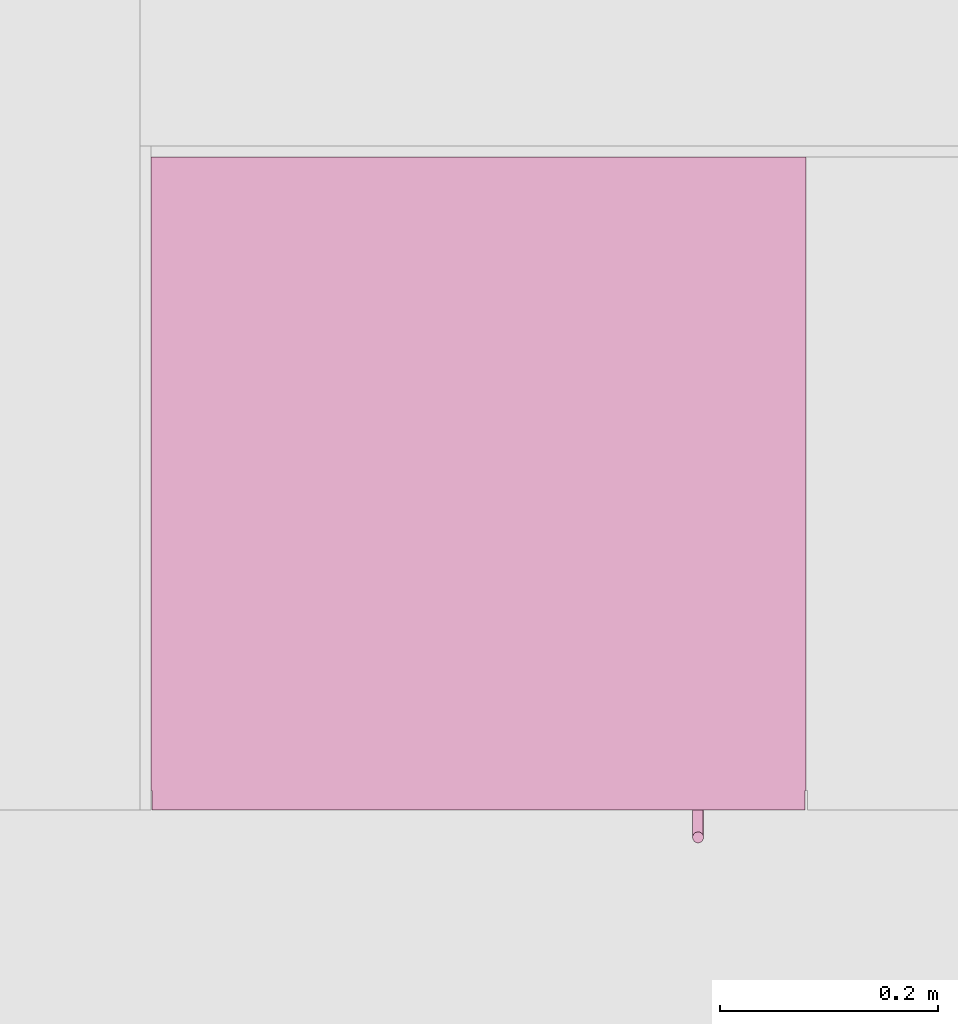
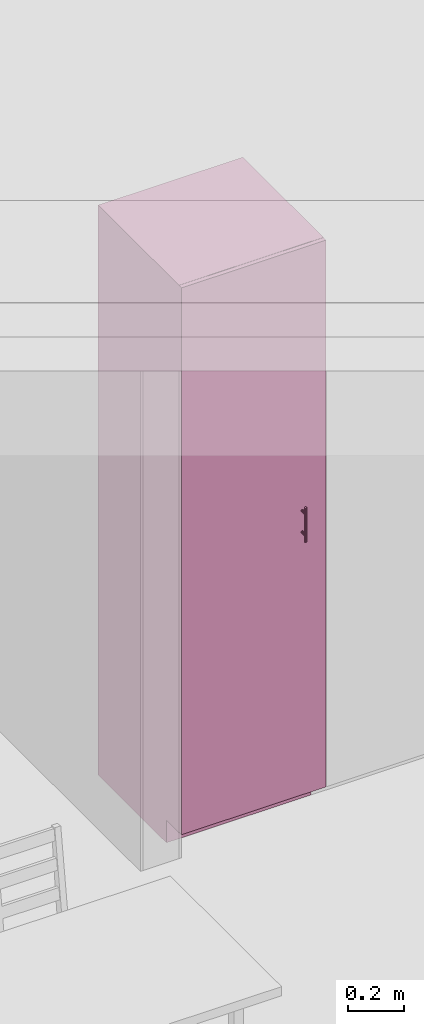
# One storey, part 30 of 36: 1 furniture element.
"""IFC4 building model written with IfcOpenShell, lengths in millimetres."""

import ifcopenshell
import ifcopenshell.guid

model = None  # the IFC model being written
_history = None  # IfcOwnerHistory: only IFC2X3 demands one
_inside = {}  # id of a spatial element -> (the spatial element, [elements in it])
_under = {}  # id of a project, library or spatial element -> (it, [spatial elements below it])
_declared = {}  # id of a project -> (the project, [libraries it declares])
_typed = {}  # id of a type object -> (the type object, [elements of that type])
_made_of = {}  # id of a material, layer set ... -> (it, [elements and type objects made of it])


def new_model(schema):
    """Start an empty IFC model of exactly this schema.

    Asked for "IFC4X3", IfcOpenShell would pick the latest addendum, in which some entities
    have other attributes; the version numbers below select the first issue.
    IFC2X3 requires an IfcOwnerHistory on every rooted entity: one is made here for all.
    """
    global model, _history
    if schema == "IFC4X3":
        model = ifcopenshell.file(schema_version=(4, 3, 0, 0))
    else:
        model = ifcopenshell.file(schema=schema)
    _inside.clear()
    _under.clear()
    _declared.clear()
    _typed.clear()
    _made_of.clear()
    _history = None
    if model.schema == "IFC2X3":
        org = make("IfcOrganization", Name="unknown")
        user = make(
            "IfcPersonAndOrganization",
            ThePerson=make("IfcPerson", FamilyName="unknown"),
            TheOrganization=org,
        )
        app = make(
            "IfcApplication",
            ApplicationDeveloper=org,
            Version="unknown",
            ApplicationFullName="unknown",
            ApplicationIdentifier="unknown",
        )
        _history = make(
            "IfcOwnerHistory",
            OwningUser=user,
            OwningApplication=app,
            ChangeAction="ADDED",
            CreationDate=0,
        )
    return model


def make(cls, **values):
    """One entity of the class cls with the attributes given. An attribute that is None is left unset."""
    return model.create_entity(
        cls, **{name: value for name, value in values.items() if value is not None}
    )


def entity(cls, *values):
    """Any entity or typed value of the class cls, its attributes in the order of the schema. None: left unset."""
    e = model.create_entity(cls)
    for i, value in enumerate(values):
        if value is not None:
            e[i] = value
    return e


def rooted(cls, **values):
    """An entity with a GlobalId (a new one), such as an element, a storey or a relation."""
    return make(cls, GlobalId=ifcopenshell.guid.new(), OwnerHistory=_history, **values)


def si_unit(unit_type, name, prefix=None):
    """IfcSIUnit, for example si_unit("LENGTHUNIT", "METRE", prefix="MILLI")."""
    return make("IfcSIUnit", UnitType=unit_type, Prefix=prefix, Name=name)


def converted_unit(unit_type, name, factor, base, dimensions=None, offset=None):
    """IfcConversionBasedUnit, such as the inch: factor (a typed value) times the base unit."""
    return make(
        "IfcConversionBasedUnit"
        if offset is None
        else "IfcConversionBasedUnitWithOffset",
        ConversionOffset=offset,
        Dimensions=None
        if dimensions is None
        else entity("IfcDimensionalExponents", *dimensions),
        UnitType=unit_type,
        Name=name,
        ConversionFactor=make(
            "IfcMeasureWithUnit", ValueComponent=factor, UnitComponent=base
        ),
    )


def derived_unit(unit_type, elements):
    """IfcDerivedUnit: a product of units, each with its exponent."""
    return make(
        "IfcDerivedUnit",
        Elements=[
            make("IfcDerivedUnitElement", Unit=unit, Exponent=power)
            for unit, power in elements
        ],
        UnitType=unit_type,
    )


def assignment(units):
    """IfcUnitAssignment: the units of a project."""
    return None if units is None else make("IfcUnitAssignment", Units=units)


def point(xyz):
    """IfcCartesianPoint."""
    return None if xyz is None else make("IfcCartesianPoint", Coordinates=xyz)


def direction(xyz):
    """IfcDirection."""
    return None if xyz is None else make("IfcDirection", DirectionRatios=xyz)


def frame(location, z_axis=None, x_axis=None):
    """IfcAxis2Placement3D, a coordinate frame: its origin and axes. An axis left out is left unset."""
    return make(
        "IfcAxis2Placement3D",
        Location=point(location),
        Axis=direction(z_axis),
        RefDirection=direction(x_axis),
    )


def origin_with_axes():
    """The frame at (0, 0, 0) with the z axis (0, 0, 1) and the x axis (1, 0, 0) written out."""
    return frame((0.0, 0.0, 0.0), z_axis=(0.0, 0.0, 1.0), x_axis=(1.0, 0.0, 0.0))


def place(relative_to, where):
    """IfcLocalPlacement: puts the frame where relative to a parent placement (None: the world)."""
    return make(
        "IfcLocalPlacement", PlacementRelTo=relative_to, RelativePlacement=where
    )


def context(
    kind, dimensions, precision=None, world=None, true_north=None, identifier=None
):
    """IfcGeometricRepresentationContext, for example the 3D "Model" context."""
    return make(
        "IfcGeometricRepresentationContext",
        ContextIdentifier=identifier,
        ContextType=kind,
        CoordinateSpaceDimension=dimensions,
        Precision=precision,
        WorldCoordinateSystem=world,
        TrueNorth=true_north,
    )


def subcontext(parent, identifier, kind, view, scale=None):
    """IfcGeometricRepresentationSubContext, for example "Body" below "Model"."""
    return make(
        "IfcGeometricRepresentationSubContext",
        ContextIdentifier=identifier,
        ContextType=kind,
        ParentContext=parent,
        TargetScale=scale,
        TargetView=view,
    )


def project(units=None, contexts=None):
    """IfcProject with its units and contexts."""
    return rooted(
        "IfcProject",
        Name="project",
        RepresentationContexts=contexts,
        UnitsInContext=assignment(units),
    )


def spatial(cls, under=None, at=None, **own):
    """A site, building, storey or space (cls), placed at a placement, below another one or the project."""
    s = rooted(cls, ObjectPlacement=at, **own)
    if under is not None:
        _under.setdefault(under.id(), (under, []))[1].append(s)
    return s


def point_list(points):
    """IfcCartesianPointList2D or 3D."""
    cls = (
        "IfcCartesianPointList2D" if len(points[0]) == 2 else "IfcCartesianPointList3D"
    )
    return make(cls, CoordList=points)


def polygons(points, faces, closed=None, point_numbers=None):
    """IfcPolygonalFaceSet: a face is its outer loop, then its inner loops; points numbered from 1."""
    made = []
    for loops in faces:
        if len(loops) == 1:
            made.append(make("IfcIndexedPolygonalFace", CoordIndex=loops[0]))
        else:
            made.append(
                make(
                    "IfcIndexedPolygonalFaceWithVoids",
                    CoordIndex=loops[0],
                    InnerCoordIndices=loops[1:],
                )
            )
    return make(
        "IfcPolygonalFaceSet",
        Coordinates=point_list(points),
        Closed=closed,
        Faces=made,
        PnIndex=point_numbers,
    )


def shape(context_of_items, identifier, shape_type, items):
    """IfcShapeRepresentation: the items that make up one representation, for example the "Body"."""
    return make(
        "IfcShapeRepresentation",
        ContextOfItems=context_of_items,
        RepresentationIdentifier=identifier,
        RepresentationType=shape_type,
        Items=items,
    )


def source(mapping_origin, context_of_items, identifier, shape_type, items):
    """IfcRepresentationMap: a shape defined once, which mapped items show again and again."""
    return make(
        "IfcRepresentationMap",
        MappingOrigin=mapping_origin,
        MappedRepresentation=shape(context_of_items, identifier, shape_type, items),
    )


def transform(
    local_origin,
    x_axis=None,
    y_axis=None,
    z_axis=None,
    scale=None,
    scale2=None,
    scale3=None,
    uniform=True,
):
    """IfcCartesianTransformationOperator3D, or its non-uniform kind. x_axis, y_axis, z_axis: its Axis1, 2, 3."""
    if uniform:
        return make(
            "IfcCartesianTransformationOperator3D",
            Axis1=direction(x_axis),
            Axis2=direction(y_axis),
            LocalOrigin=point(local_origin),
            Scale=scale,
            Axis3=direction(z_axis),
        )
    return make(
        "IfcCartesianTransformationOperator3DnonUniform",
        Axis1=direction(x_axis),
        Axis2=direction(y_axis),
        LocalOrigin=point(local_origin),
        Scale=scale,
        Axis3=direction(z_axis),
        Scale2=scale2,
        Scale3=scale3,
    )


def mapped(mapping_source, mapping_target):
    """IfcMappedItem: shows the shape of a source again, moved by a transform."""
    return make(
        "IfcMappedItem", MappingSource=mapping_source, MappingTarget=mapping_target
    )


def made_of(thing, what):
    """Note that an element or type object is made of a material, layer set ...; save() writes the relation."""
    if what is not None:
        _made_of.setdefault(what.id(), (what, []))[1].append(thing)
    return thing


def type_object(cls, material=None, **own):
    """A type object (cls), such as IfcWallType, which elements share."""
    return made_of(rooted(cls, **own), material)


def element(
    cls,
    number,
    at=None,
    inside=None,
    cuts=None,
    type_object=None,
    material=None,
    context=None,
    identifier="Body",
    shape_type=None,
    held_by="IfcProductDefinitionShape",
    body=None,
    shapes=None,
    **own,
):
    """One element of the class cls, such as IfcWall. Its Tag is "e" and its number.

    at: its placement. inside: the storey or other place that contains it. cuts: it is an
    opening in that element (IfcRelVoidsElement). A single representation is given by context,
    identifier, shape_type and body (its items); several are given by shapes. held_by: the class
    of the entity that holds the representations. save() writes the other relations.
    """
    e = rooted(cls, Tag="e%d" % number, ObjectPlacement=at, **own)
    if body is not None:
        shapes = [shape(context, identifier, shape_type, body)]
    if shapes is not None:
        e.Representation = make(held_by, Representations=shapes)
    if inside is not None:
        _inside.setdefault(inside.id(), (inside, []))[1].append(e)
    if cuts is not None:
        rooted(
            "IfcRelVoidsElement", RelatingBuildingElement=cuts, RelatedOpeningElement=e
        )
    if type_object is not None:
        _typed.setdefault(type_object.id(), (type_object, []))[1].append(e)
    return made_of(e, material)


def aggregate(whole, parts):
    """IfcRelAggregates: a whole, such as a stair, and the parts it consists of."""
    return rooted("IfcRelAggregates", RelatingObject=whole, RelatedObjects=parts)


def save(model, path):
    """Write the relations noted so far, then the file.

    IfcRelAggregates (storeys below a building ...), IfcRelContainedInSpatialStructure (elements
    in a storey), IfcRelDefinesByType, IfcRelAssociatesMaterial and IfcRelDeclares: one each for
    every whole, place, type object, material and project.
    """
    for whole, parts in _under.values():
        aggregate(whole, parts)
    for where, things in _inside.values():
        rooted(
            "IfcRelContainedInSpatialStructure",
            RelatedElements=things,
            RelatingStructure=where,
        )
    for kind, things in _typed.values():
        rooted("IfcRelDefinesByType", RelatedObjects=things, RelatingType=kind)
    for what, things in _made_of.values():
        rooted("IfcRelAssociatesMaterial", RelatedObjects=things, RelatingMaterial=what)
    for by, libraries in _declared.values():
        rooted("IfcRelDeclares", RelatingContext=by, RelatedDefinitions=libraries)
    model.write(path)


model = new_model("IFC4")

# Units and contexts
model_context = context("Model", 3, precision=0.01, world=origin_with_axes(), true_north=direction((0.0, 1.0)))
body_context = subcontext(model_context, "Body", "Model", "MODEL_VIEW")
ifc_project = project(units=[si_unit("LENGTHUNIT", "METRE", prefix="MILLI"), si_unit("AREAUNIT", "SQUARE_METRE"), si_unit("VOLUMEUNIT", "CUBIC_METRE"), converted_unit("PLANEANGLEUNIT", "DEGREE", entity("IfcPlaneAngleMeasure", 0.0174532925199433), si_unit("PLANEANGLEUNIT", "RADIAN"), dimensions=[0, 0, 0, 0, 0, 0, 0]), converted_unit("TIMEUNIT", "Year", entity("IfcTimeMeasure", 31557600.0), si_unit("TIMEUNIT", "SECOND"), dimensions=[0, 0, 1, 0, 0, 0, 0]), si_unit("MASSUNIT", "GRAM", prefix="KILO"), si_unit("THERMODYNAMICTEMPERATUREUNIT", "DEGREE_CELSIUS"), si_unit("LUMINOUSINTENSITYUNIT", "LUMEN"), si_unit("ENERGYUNIT", "JOULE", prefix="MEGA"), derived_unit("THERMALCONDUCTANCEUNIT", [(si_unit("POWERUNIT", "WATT"), 1), (si_unit("LENGTHUNIT", "METRE"), -1), (si_unit("THERMODYNAMICTEMPERATUREUNIT", "KELVIN"), -1)]), derived_unit("SPECIFICHEATCAPACITYUNIT", [(si_unit("ENERGYUNIT", "JOULE"), 1), (si_unit("MASSUNIT", "GRAM", prefix="KILO"), -1), (si_unit("THERMODYNAMICTEMPERATUREUNIT", "KELVIN"), -1)]), derived_unit("MASSDENSITYUNIT", [(si_unit("MASSUNIT", "GRAM", prefix="KILO"), 1), (si_unit("VOLUMEUNIT", "CUBIC_METRE"), -1)])], contexts=[model_context])

# Site, building, storey
site_placement = place(None, origin_with_axes())
site = spatial("IfcSite", under=ifc_project, at=site_placement, Name="Gelände", CompositionType="ELEMENT")
building_placement = place(site_placement, origin_with_axes())
building = spatial("IfcBuilding", under=site, at=building_placement, Name="Gebäude", CompositionType="ELEMENT")
storey_placement = place(building_placement, frame((0.0, 0.0, 8700.0), z_axis=(0.0, 0.0, 1.0), x_axis=(1.0, 0.0, 0.0)))
storey = spatial("IfcBuildingStorey", under=building, at=storey_placement, Name="Attika", CompositionType="ELEMENT", Elevation=8700.0)

# Furniture
furniture_type = type_object("IfcFurnitureType", Name="Stehender Schrank Block 27", AssemblyPlace="NOTDEFINED", PredefinedType="NOTDEFINED")
shared_shape = source(origin_with_axes(), body_context, "Body", "Tessellation", [
    polygons([(501.8682408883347, -597.9999999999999, 1352.799038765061), (502.7101007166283, -597.9999999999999, 1352.573463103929), (503.4999999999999, -597.9999999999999, 1352.205127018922), (504.2139380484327, -597.9999999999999, 1351.705222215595), (504.8302222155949, -597.9999999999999, 1351.088938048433), (505.3301270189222, -597.9999999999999, 1350.375), (505.6984631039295, -597.9999999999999, 1349.585100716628), (505.924038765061, -597.9999999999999, 1348.743240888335), (506.0, -597.9999999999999, 1347.875), (505.924038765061, -597.9999999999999, 1347.006759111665), (505.6984631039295, -597.9999999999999, 1346.164899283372), (505.3301270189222, -597.9999999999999, 1345.375), (504.8302222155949, -597.9999999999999, 1344.661061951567), (504.2139380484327, -597.9999999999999, 1344.044777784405), (503.4999999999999, -597.9999999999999, 1343.544872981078), (502.7101007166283, -597.9999999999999, 1343.176536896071), (501.8682408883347, -597.9999999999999, 1342.950961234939), (501.0, -597.9999999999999, 1342.875), (500.1317591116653, -597.9999999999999, 1342.950961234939), (499.2898992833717, -597.9999999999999, 1343.176536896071), (498.5, -597.9999999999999, 1343.544872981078), (497.7860619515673, -597.9999999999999, 1344.044777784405), (497.1697777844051, -597.9999999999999, 1344.661061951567), (496.6698729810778, -597.9999999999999, 1345.375), (496.3015368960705, -597.9999999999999, 1346.164899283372), (496.075961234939, -597.9999999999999, 1347.006759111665), (496.0, -597.9999999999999, 1347.875), (496.075961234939, -597.9999999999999, 1348.743240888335), (496.3015368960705, -597.9999999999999, 1349.585100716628), (496.6698729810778, -597.9999999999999, 1350.375), (497.1697777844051, -597.9999999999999, 1351.088938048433), (497.7860619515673, -597.9999999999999, 1351.705222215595), (498.5, -597.9999999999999, 1352.205127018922), (499.2898992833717, -597.9999999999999, 1352.573463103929), (500.1317591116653, -597.9999999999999, 1352.799038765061), (501.0, -597.9999999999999, 1352.875), (501.8682408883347, -622.9999999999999, 1352.799038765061), (502.7101007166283, -622.9999999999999, 1352.573463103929), (503.4999999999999, -622.9999999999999, 1352.205127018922), (504.2139380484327, -622.9999999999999, 1351.705222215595), (504.8302222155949, -622.9999999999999, 1351.088938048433), (505.3301270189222, -622.9999999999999, 1350.375), (505.6984631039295, -622.9999999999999, 1349.585100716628), (505.924038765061, -622.9999999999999, 1348.743240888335), (506.0, -622.9999999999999, 1347.875), (505.924038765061, -622.9999999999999, 1347.006759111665), (505.6984631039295, -622.9999999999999, 1346.164899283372), (505.3301270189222, -622.9999999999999, 1345.375), (504.8302222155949, -622.9999999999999, 1344.661061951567), (504.2139380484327, -622.9999999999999, 1344.044777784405), (503.4999999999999, -622.9999999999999, 1343.544872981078), (502.7101007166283, -622.9999999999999, 1343.176536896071), (501.8682408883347, -622.9999999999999, 1342.950961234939), (501.0, -622.9999999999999, 1342.875), (500.1317591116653, -622.9999999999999, 1342.950961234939), (499.2898992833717, -622.9999999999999, 1343.176536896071), (498.5, -622.9999999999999, 1343.544872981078), (497.7860619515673, -622.9999999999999, 1344.044777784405), (497.1697777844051, -622.9999999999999, 1344.661061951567), (496.6698729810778, -622.9999999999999, 1345.375), (496.3015368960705, -622.9999999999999, 1346.164899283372), (496.075961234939, -622.9999999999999, 1347.006759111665), (496.0, -622.9999999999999, 1347.875), (496.075961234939, -622.9999999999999, 1348.743240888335), (496.3015368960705, -622.9999999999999, 1349.585100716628), (496.6698729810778, -622.9999999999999, 1350.375), (497.1697777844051, -622.9999999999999, 1351.088938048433), (497.7860619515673, -622.9999999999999, 1351.705222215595), (498.5, -622.9999999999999, 1352.205127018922), (499.2898992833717, -622.9999999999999, 1352.573463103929), (500.1317591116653, -622.9999999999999, 1352.799038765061), (501.0, -622.9999999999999, 1352.875)], [[[1, 2, 3, 4, 5, 6, 7, 8, 9, 10, 11, 12, 13, 14, 15, 16, 17, 18, 19, 20, 21, 22, 23, 24, 25, 26, 27, 28, 29, 30, 31, 32, 33, 34, 35, 36]], [[2, 1, 37, 38]], [[3, 2, 38, 39]], [[4, 3, 39, 40]], [[5, 4, 40, 41]], [[6, 5, 41, 42]], [[7, 6, 42, 43]], [[8, 7, 43, 44]], [[9, 8, 44, 45]], [[10, 9, 45, 46]], [[11, 10, 46, 47]], [[12, 11, 47, 48]], [[13, 12, 48, 49]], [[14, 13, 49, 50]], [[15, 14, 50, 51]], [[16, 15, 51, 52]], [[17, 16, 52, 53]], [[18, 17, 53, 54]], [[19, 18, 54, 55]], [[20, 19, 55, 56]], [[21, 20, 56, 57]], [[22, 21, 57, 58]], [[23, 22, 58, 59]], [[24, 23, 59, 60]], [[25, 24, 60, 61]], [[26, 25, 61, 62]], [[27, 26, 62, 63]], [[28, 27, 63, 64]], [[29, 28, 64, 65]], [[30, 29, 65, 66]], [[31, 30, 66, 67]], [[32, 31, 67, 68]], [[33, 32, 68, 69]], [[34, 33, 69, 70]], [[35, 34, 70, 71]], [[36, 35, 71, 72]], [[1, 36, 72, 37]], [[37, 72, 71, 70, 69, 68, 67, 66, 65, 64, 63, 62, 61, 60, 59, 58, 57, 56, 55, 54, 53, 52, 51, 50, 49, 48, 47, 46, 45, 44, 43, 42, 41, 40, 39, 38]]], closed=True),
    polygons([(501.8682408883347, -597.9999999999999, 1249.200961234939), (501.0, -597.9999999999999, 1249.125), (500.1317591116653, -597.9999999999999, 1249.200961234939), (499.2898992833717, -597.9999999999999, 1249.426536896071), (498.5, -597.9999999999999, 1249.794872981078), (497.7860619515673, -597.9999999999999, 1250.294777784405), (497.1697777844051, -597.9999999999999, 1250.911061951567), (496.6698729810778, -597.9999999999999, 1251.625), (496.3015368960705, -597.9999999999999, 1252.414899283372), (496.075961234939, -597.9999999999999, 1253.256759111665), (496.0, -597.9999999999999, 1254.125), (496.075961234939, -597.9999999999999, 1254.993240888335), (496.3015368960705, -597.9999999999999, 1255.835100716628), (496.6698729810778, -597.9999999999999, 1256.625), (497.1697777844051, -597.9999999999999, 1257.338938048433), (497.7860619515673, -597.9999999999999, 1257.955222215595), (498.5, -597.9999999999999, 1258.455127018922), (499.2898992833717, -597.9999999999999, 1258.823463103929), (500.1317591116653, -597.9999999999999, 1259.049038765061), (501.0, -597.9999999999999, 1259.125), (501.8682408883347, -597.9999999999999, 1259.049038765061), (502.7101007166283, -597.9999999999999, 1258.823463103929), (503.4999999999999, -597.9999999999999, 1258.455127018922), (504.2139380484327, -597.9999999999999, 1257.955222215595), (504.8302222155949, -597.9999999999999, 1257.338938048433), (505.3301270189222, -597.9999999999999, 1256.625), (505.6984631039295, -597.9999999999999, 1255.835100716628), (505.924038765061, -597.9999999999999, 1254.993240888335), (506.0, -597.9999999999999, 1254.125), (505.924038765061, -597.9999999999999, 1253.256759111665), (505.6984631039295, -597.9999999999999, 1252.414899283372), (505.3301270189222, -597.9999999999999, 1251.625), (504.8302222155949, -597.9999999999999, 1250.911061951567), (504.2139380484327, -597.9999999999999, 1250.294777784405), (503.4999999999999, -597.9999999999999, 1249.794872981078), (502.7101007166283, -597.9999999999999, 1249.426536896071), (501.8682408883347, -622.9999999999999, 1249.200961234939), (501.0, -622.9999999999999, 1249.125), (500.1317591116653, -622.9999999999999, 1249.200961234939), (499.2898992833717, -622.9999999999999, 1249.426536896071), (498.5, -622.9999999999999, 1249.794872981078), (497.7860619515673, -622.9999999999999, 1250.294777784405), (497.1697777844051, -622.9999999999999, 1250.911061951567), (496.6698729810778, -622.9999999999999, 1251.625), (496.3015368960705, -622.9999999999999, 1252.414899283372), (496.075961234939, -622.9999999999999, 1253.256759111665), (496.0, -622.9999999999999, 1254.125), (496.075961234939, -622.9999999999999, 1254.993240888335), (496.3015368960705, -622.9999999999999, 1255.835100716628), (496.6698729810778, -622.9999999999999, 1256.625), (497.1697777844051, -622.9999999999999, 1257.338938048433), (497.7860619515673, -622.9999999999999, 1257.955222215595), (498.5, -622.9999999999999, 1258.455127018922), (499.2898992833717, -622.9999999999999, 1258.823463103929), (500.1317591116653, -622.9999999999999, 1259.049038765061), (501.0, -622.9999999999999, 1259.125), (501.8682408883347, -622.9999999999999, 1259.049038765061), (502.7101007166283, -622.9999999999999, 1258.823463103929), (503.4999999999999, -622.9999999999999, 1258.455127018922), (504.2139380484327, -622.9999999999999, 1257.955222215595), (504.8302222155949, -622.9999999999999, 1257.338938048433), (505.3301270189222, -622.9999999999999, 1256.625), (505.6984631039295, -622.9999999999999, 1255.835100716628), (505.924038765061, -622.9999999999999, 1254.993240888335), (506.0, -622.9999999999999, 1254.125), (505.924038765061, -622.9999999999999, 1253.256759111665), (505.6984631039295, -622.9999999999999, 1252.414899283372), (505.3301270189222, -622.9999999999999, 1251.625), (504.8302222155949, -622.9999999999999, 1250.911061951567), (504.2139380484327, -622.9999999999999, 1250.294777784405), (503.4999999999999, -622.9999999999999, 1249.794872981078), (502.7101007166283, -622.9999999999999, 1249.426536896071)], [[[1, 2, 3, 4, 5, 6, 7, 8, 9, 10, 11, 12, 13, 14, 15, 16, 17, 18, 19, 20, 21, 22, 23, 24, 25, 26, 27, 28, 29, 30, 31, 32, 33, 34, 35, 36]], [[1, 37, 38, 2]], [[2, 38, 39, 3]], [[3, 39, 40, 4]], [[4, 40, 41, 5]], [[5, 41, 42, 6]], [[6, 42, 43, 7]], [[7, 43, 44, 8]], [[8, 44, 45, 9]], [[9, 45, 46, 10]], [[10, 46, 47, 11]], [[11, 47, 48, 12]], [[12, 48, 49, 13]], [[13, 49, 50, 14]], [[14, 50, 51, 15]], [[15, 51, 52, 16]], [[16, 52, 53, 17]], [[17, 53, 54, 18]], [[18, 54, 55, 19]], [[19, 55, 56, 20]], [[20, 56, 57, 21]], [[21, 57, 58, 22]], [[22, 58, 59, 23]], [[23, 59, 60, 24]], [[24, 60, 61, 25]], [[25, 61, 62, 26]], [[26, 62, 63, 27]], [[27, 63, 64, 28]], [[28, 64, 65, 29]], [[29, 65, 66, 30]], [[30, 66, 67, 31]], [[31, 67, 68, 32]], [[32, 68, 69, 33]], [[33, 69, 70, 34]], [[34, 70, 71, 35]], [[35, 71, 72, 36]], [[36, 72, 37, 1]], [[37, 72, 71, 70, 69, 68, 67, 66, 65, 64, 63, 62, 61, 60, 59, 58, 57, 56, 55, 54, 53, 52, 51, 50, 49, 48, 47, 46, 45, 44, 43, 42, 41, 40, 39, 38]]], closed=True),
    polygons([(501.8682408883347, -618.0759612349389, 1226.0), (502.7101007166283, -618.3015368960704, 1226.0), (503.4999999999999, -618.6698729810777, 1226.0), (504.2139380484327, -619.1697777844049, 1226.0), (504.8302222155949, -619.7860619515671, 1226.0), (505.3301270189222, -620.4999999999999, 1226.0), (505.6984631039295, -621.2898992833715, 1226.0), (505.924038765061, -622.1317591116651, 1226.0), (506.0, -622.9999999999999, 1226.0), (505.924038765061, -623.8682408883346, 1226.0), (505.6984631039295, -624.7101007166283, 1226.0), (505.3301270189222, -625.4999999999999, 1226.0), (504.8302222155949, -626.2139380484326, 1226.0), (504.2139380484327, -626.8302222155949, 1226.0), (503.4999999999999, -627.3301270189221, 1226.0), (502.7101007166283, -627.6984631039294, 1226.0), (501.8682408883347, -627.924038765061, 1226.0), (501.0, -627.9999999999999, 1226.0), (500.1317591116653, -627.924038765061, 1226.0), (499.2898992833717, -627.6984631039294, 1226.0), (498.5, -627.3301270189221, 1226.0), (497.7860619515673, -626.8302222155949, 1226.0), (497.1697777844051, -626.2139380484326, 1226.0), (496.6698729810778, -625.4999999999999, 1226.0), (496.3015368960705, -624.7101007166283, 1226.0), (496.075961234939, -623.8682408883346, 1226.0), (496.0, -622.9999999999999, 1226.0), (496.075961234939, -622.1317591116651, 1226.0), (496.3015368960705, -621.2898992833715, 1226.0), (496.6698729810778, -620.4999999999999, 1226.0), (497.1697777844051, -619.7860619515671, 1226.0), (497.7860619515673, -619.1697777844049, 1226.0), (498.5, -618.6698729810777, 1226.0), (499.2898992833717, -618.3015368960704, 1226.0), (500.1317591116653, -618.0759612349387, 1226.0), (501.0, -617.9999999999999, 1226.0), (501.8682408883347, -618.0759612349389, 1376.0), (502.7101007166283, -618.3015368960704, 1376.0), (503.5000000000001, -618.6698729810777, 1376.0), (504.2139380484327, -619.1697777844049, 1376.0), (504.8302222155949, -619.7860619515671, 1376.0), (505.3301270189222, -620.4999999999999, 1376.0), (505.6984631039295, -621.2898992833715, 1376.0), (505.9240387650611, -622.1317591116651, 1376.0), (506.0, -622.9999999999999, 1376.0), (505.9240387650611, -623.8682408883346, 1376.0), (505.6984631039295, -624.7101007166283, 1376.0), (505.3301270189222, -625.4999999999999, 1376.0), (504.8302222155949, -626.2139380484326, 1376.0), (504.2139380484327, -626.8302222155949, 1376.0), (503.5000000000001, -627.3301270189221, 1376.0), (502.7101007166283, -627.6984631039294, 1376.0), (501.8682408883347, -627.924038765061, 1376.0), (501.0, -627.9999999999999, 1376.0), (500.1317591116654, -627.924038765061, 1376.0), (499.2898992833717, -627.6984631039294, 1376.0), (498.5, -627.3301270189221, 1376.0), (497.7860619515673, -626.8302222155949, 1376.0), (497.1697777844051, -626.2139380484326, 1376.0), (496.6698729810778, -625.4999999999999, 1376.0), (496.3015368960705, -624.7101007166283, 1376.0), (496.075961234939, -623.8682408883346, 1376.0), (496.0, -622.9999999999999, 1376.0), (496.075961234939, -622.1317591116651, 1376.0), (496.3015368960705, -621.2898992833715, 1376.0), (496.6698729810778, -620.4999999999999, 1376.0), (497.1697777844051, -619.7860619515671, 1376.0), (497.7860619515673, -619.1697777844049, 1376.0), (498.5, -618.6698729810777, 1376.0), (499.2898992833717, -618.3015368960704, 1376.0), (500.1317591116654, -618.0759612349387, 1376.0), (501.0, -617.9999999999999, 1376.0)], [[[1, 2, 3, 4, 5, 6, 7, 8, 9, 10, 11, 12, 13, 14, 15, 16, 17, 18, 19, 20, 21, 22, 23, 24, 25, 26, 27, 28, 29, 30, 31, 32, 33, 34, 35, 36]], [[2, 1, 37, 38]], [[3, 2, 38, 39]], [[4, 3, 39, 40]], [[5, 4, 40, 41]], [[6, 5, 41, 42]], [[7, 6, 42, 43]], [[8, 7, 43, 44]], [[9, 8, 44, 45]], [[10, 9, 45, 46]], [[11, 10, 46, 47]], [[12, 11, 47, 48]], [[13, 12, 48, 49]], [[14, 13, 49, 50]], [[15, 14, 50, 51]], [[16, 15, 51, 52]], [[17, 16, 52, 53]], [[18, 17, 53, 54]], [[19, 18, 54, 55]], [[20, 19, 55, 56]], [[21, 20, 56, 57]], [[22, 21, 57, 58]], [[23, 22, 58, 59]], [[24, 23, 59, 60]], [[25, 24, 60, 61]], [[26, 25, 61, 62]], [[27, 26, 62, 63]], [[28, 27, 63, 64]], [[29, 28, 64, 65]], [[30, 29, 65, 66]], [[31, 30, 66, 67]], [[32, 31, 67, 68]], [[33, 32, 68, 69]], [[34, 33, 69, 70]], [[35, 34, 70, 71]], [[36, 35, 71, 72]], [[1, 36, 72, 37]], [[37, 72, 71, 70, 69, 68, 67, 66, 65, 64, 63, 62, 61, 60, 59, 58, 57, 56, 55, 54, 53, 52, 51, 50, 49, 48, 47, 46, 45, 44, 43, 42, 41, 40, 39, 38]]], closed=True),
    polygons([(1.0, -580.0, 101.0), (599.0, -580.0, 101.0), (599.0, -598.0, 101.0), (1.0, -598.0, 101.0), (1.0, -579.9999999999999, 2499.0), (599.0, -579.9999999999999, 2499.0), (599.0, -597.9999999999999, 2499.0), (1.0, -597.9999999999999, 2499.0)], [[[1, 2, 3, 4]], [[1, 5, 6, 2]], [[2, 6, 7, 3]], [[4, 3, 7, 8]], [[5, 1, 4, 8]], [[6, 5, 8, 7]]], closed=True),
    polygons([(18.0, -580.0, 100.0), (582.0, -580.0, 100.0), (582.0, -580.0, 118.0), (18.0, -580.0, 118.0), (18.0, 0.0, 100.0), (582.0, 0.0, 100.0), (582.0, 0.0, 118.0), (18.0, 0.0, 118.0)], [[[1, 2, 3, 4]], [[1, 5, 6, 2]], [[2, 6, 7, 3]], [[4, 3, 7, 8]], [[5, 1, 4, 8]], [[6, 5, 8, 7]]], closed=True),
    polygons([(18.0, -580.0, 2482.0), (582.0, -580.0, 2482.0), (582.0, -580.0, 2500.0), (18.0, -580.0, 2500.0), (18.0, 0.0, 2482.0), (582.0, 0.0, 2482.0), (582.0, 0.0, 2500.0), (18.0, 0.0, 2500.0)], [[[1, 2, 3, 4]], [[1, 5, 6, 2]], [[2, 6, 7, 3]], [[4, 3, 7, 8]], [[5, 1, 4, 8]], [[6, 5, 8, 7]]], closed=True),
    polygons([(0.0, 0.0, 100.0), (0.0, -580.0, 100.0), (0.0, -580.0, 2500.0), (0.0, 0.0, 2500.0), (18.0, 0.0, 100.0), (18.0, -580.0, 100.0), (18.0, -580.0, 2500.0), (18.0, 0.0, 2500.0)], [[[1, 2, 3, 4]], [[1, 5, 6, 2]], [[2, 6, 7, 3]], [[4, 3, 7, 8]], [[5, 1, 4, 8]], [[6, 5, 8, 7]]], closed=True),
    polygons([(600.0, -580.0, 100.0), (600.0, 0.0, 100.0), (600.0, 0.0, 2500.0), (600.0, -580.0, 2500.0), (582.0, -580.0, 100.0), (582.0, 0.0, 100.0), (582.0, 0.0, 2500.0), (582.0, -580.0, 2500.0)], [[[1, 2, 3, 4]], [[1, 5, 6, 2]], [[2, 6, 7, 3]], [[4, 3, 7, 8]], [[5, 1, 4, 8]], [[6, 5, 8, 7]]], closed=True),
    polygons([(582.0, -9.0, 118.0), (18.00000000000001, -9.0, 118.0), (18.00000000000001, -9.0, 2482.0), (582.0, -9.0, 2482.0), (582.0, -18.0, 118.0), (18.00000000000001, -18.0, 118.0), (18.00000000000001, -18.0, 2482.0), (582.0, -18.0, 2482.0)], [[[1, 2, 3, 4]], [[1, 5, 6, 2]], [[2, 6, 7, 3]], [[4, 3, 7, 8]], [[5, 1, 4, 8]], [[6, 5, 8, 7]]], closed=True),
    polygons([(0.0, -490.0, 0.0), (600.0, -490.0, 0.0), (600.0, -490.0, 100.0), (0.0, -490.0, 100.0), (0.0, 0.0, 0.0), (600.0, 0.0, 0.0), (600.0, 0.0, 100.0), (0.0, 0.0, 100.0)], [[[1, 2, 3, 4]], [[1, 5, 6, 2]], [[2, 6, 7, 3]], [[4, 3, 7, 8]], [[5, 1, 4, 8]], [[6, 5, 8, 7]]], closed=True),
])
furniture_placement = place(storey_placement, frame((8428.997444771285, 29747.59728131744, 150.0000000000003), z_axis=(0.0, 0.0, 1.0), x_axis=(1.0, 0.0, 0.0)))
element("IfcFurniture", 1, at=furniture_placement, inside=storey, type_object=furniture_type, Name="Möbel-021", PredefinedType="NOTDEFINED", context=body_context, shape_type="MappedRepresentation", body=[
    mapped(shared_shape, transform((0.0, 0.0, 0.0))),
])

save(model, "model.ifc")
